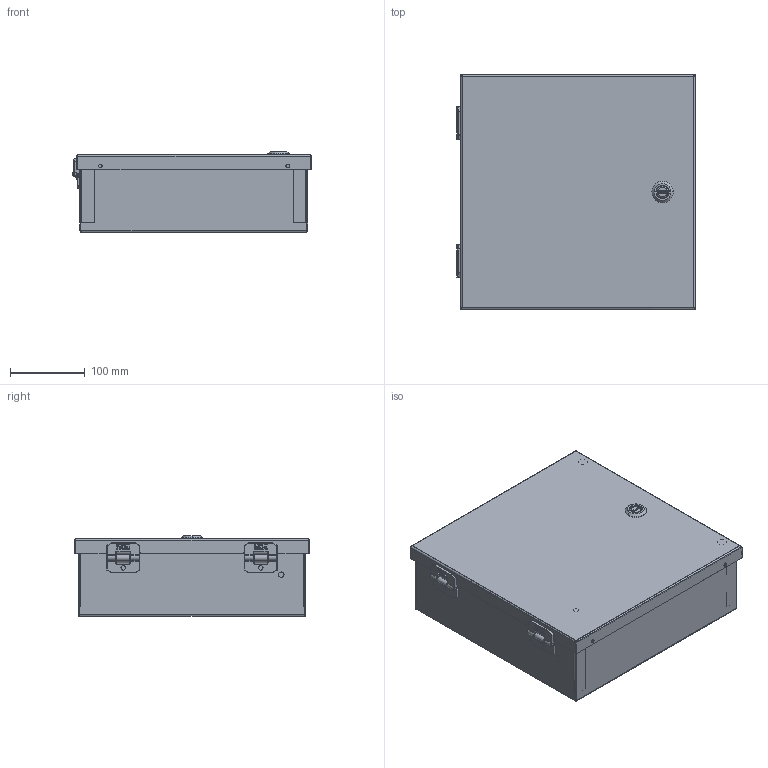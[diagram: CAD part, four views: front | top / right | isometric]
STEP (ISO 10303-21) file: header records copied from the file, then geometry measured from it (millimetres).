
FILE_DESCRIPTION((''),'2;1');
FILE_NAME('MODEL-124_ASM','2025-07-30T11:38:39',('johnh'),('SAGINAW CONTROL & ENGINEERING'),'CREO PARAMETRIC BY PTC INC, 2021284','CREO PARAMETRIC BY PTC INC, 2021284','');
FILE_SCHEMA(('AUTOMOTIVE_DESIGN { 1 0 10303 214 1 1 1 1 }'));
Length unit declared in the file: inch
Products named in the file (20): MODEL-124-BDY; MODEL-124-DR; 128691-DOOR-LEAF; 128691-BOX-LEAF; 128691-DOOR-LEAF-STUD; 128691-PIN; 128691-BOX-LEAF-STUD; 128691_ASM; 129266; 128578; 128579; 105060; 100837; MODEL-124-DOOR-ASSY_ASM; 123580; 101661; SUBPANEL; 102522; SUBPANEL-SUBASSEMBLY_ASM; MODEL-124_ASM
Assembly tree (31 placements, depth 4):
  MODEL-124_ASM
    MODEL-124-BDY
    MODEL-124-DOOR-ASSY_ASM
      MODEL-124-DR
      128691_ASM  x2
        128691-DOOR-LEAF
        128691-BOX-LEAF
        128691-DOOR-LEAF-STUD
        128691-PIN
        128691-BOX-LEAF-STUD
      129266  x4
      128578
      128579
      105060  x2
      100837
    123580
    100837
    101661  x4
    SUBPANEL-SUBASSEMBLY_ASM
      SUBPANEL
      102522  x4
Bounding box: 319.84 x 314.32 x 108.28 mm (x, y, z)
Volume: 587955.6 mm3; surface area: 871280.4 mm2
Topology: 31 solids, 31 shells, 3337 faces, 8757 edges, 5436 vertices
Faces by surface type: plane 1167, cylinder 1101, bspline 770, torus 140, cone 119, sphere 40
Entity records: 100519 total; most frequent: CARTESIAN_POINT 52985, ORIENTED_EDGE 7376, DIRECTION 6483, PRESENTATION_STYLE_ASSIGNMENT 3705, STYLED_ITEM 3703, CURVE_STYLE 3688, EDGE_CURVE 3688, AXIS2_PLACEMENT_3D 2396
